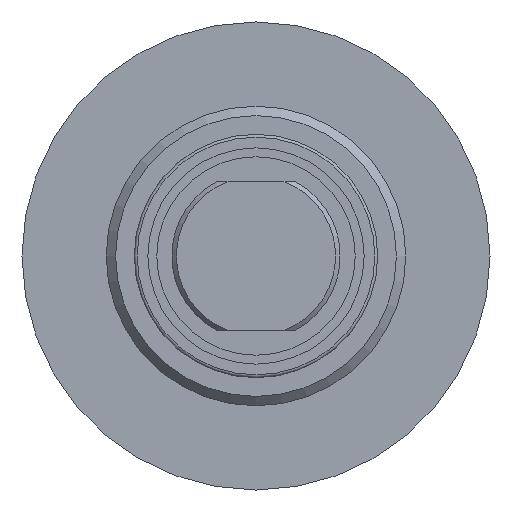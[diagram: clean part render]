
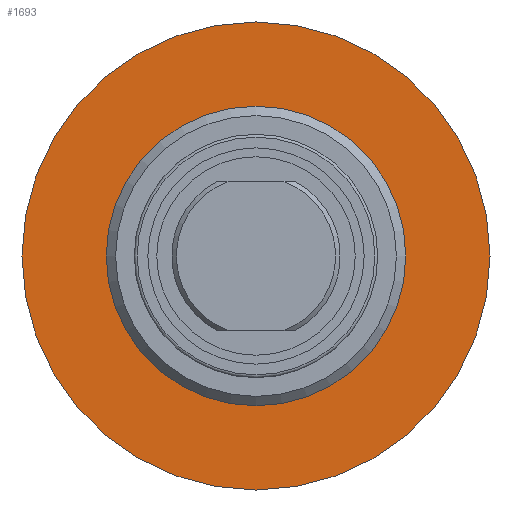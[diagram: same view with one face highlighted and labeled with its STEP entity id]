
A CAD part, left-side view. The second image highlights one B-rep face of the part: STEP entity #1693.
In plain terms, the highlighted planar face has unit normal (-1, 0, 0).
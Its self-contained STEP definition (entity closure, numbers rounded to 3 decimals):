
#204=FACE_BOUND('',#387,.T.);
#241=PLANE('',#2104);
#285=FACE_OUTER_BOUND('',#386,.T.);
#386=EDGE_LOOP('',(#1259,#1260));
#387=EDGE_LOOP('',(#1261,#1262));
#614=CIRCLE('',#2061,16.);
#615=CIRCLE('',#2062,16.);
#642=CIRCLE('',#2097,25.);
#643=CIRCLE('',#2098,25.);
#758=VERTEX_POINT('',#2925);
#759=VERTEX_POINT('',#2926);
#784=VERTEX_POINT('',#2992);
#785=VERTEX_POINT('',#2994);
#942=EDGE_CURVE('',#758,#759,#614,.T.);
#943=EDGE_CURVE('',#759,#758,#615,.T.);
#976=EDGE_CURVE('',#784,#785,#642,.T.);
#977=EDGE_CURVE('',#785,#784,#643,.T.);
#1259=ORIENTED_EDGE('',*,*,#977,.F.);
#1260=ORIENTED_EDGE('',*,*,#976,.F.);
#1261=ORIENTED_EDGE('',*,*,#942,.T.);
#1262=ORIENTED_EDGE('',*,*,#943,.T.);
#1693=ADVANCED_FACE('',(#285,#204),#241,.T.);
#2061=AXIS2_PLACEMENT_3D('',#2927,#2342,#2343);
#2062=AXIS2_PLACEMENT_3D('',#2928,#2344,#2345);
#2097=AXIS2_PLACEMENT_3D('',#2995,#2420,#2421);
#2098=AXIS2_PLACEMENT_3D('',#2996,#2422,#2423);
#2104=AXIS2_PLACEMENT_3D('',#3007,#2436,#2437);
#2342=DIRECTION('center_axis',(1.,0.,0.));
#2343=DIRECTION('ref_axis',(0.,0.,-1.));
#2344=DIRECTION('center_axis',(1.,0.,0.));
#2345=DIRECTION('ref_axis',(0.,0.,-1.));
#2420=DIRECTION('center_axis',(1.,0.,0.));
#2421=DIRECTION('ref_axis',(0.,0.,-1.));
#2422=DIRECTION('center_axis',(1.,0.,0.));
#2423=DIRECTION('ref_axis',(0.,0.,-1.));
#2436=DIRECTION('center_axis',(-1.,0.,0.));
#2437=DIRECTION('ref_axis',(0.,0.,1.));
#2925=CARTESIAN_POINT('',(-6.,16.,0.));
#2926=CARTESIAN_POINT('',(-6.,-16.,0.));
#2927=CARTESIAN_POINT('Origin',(-6.,0.,0.));
#2928=CARTESIAN_POINT('Origin',(-6.,0.,0.));
#2992=CARTESIAN_POINT('',(-6.,-25.,0.));
#2994=CARTESIAN_POINT('',(-6.,25.,0.));
#2995=CARTESIAN_POINT('Origin',(-6.,0.,0.));
#2996=CARTESIAN_POINT('Origin',(-6.,0.,0.));
#3007=CARTESIAN_POINT('Origin',(-6.,25.,0.));
